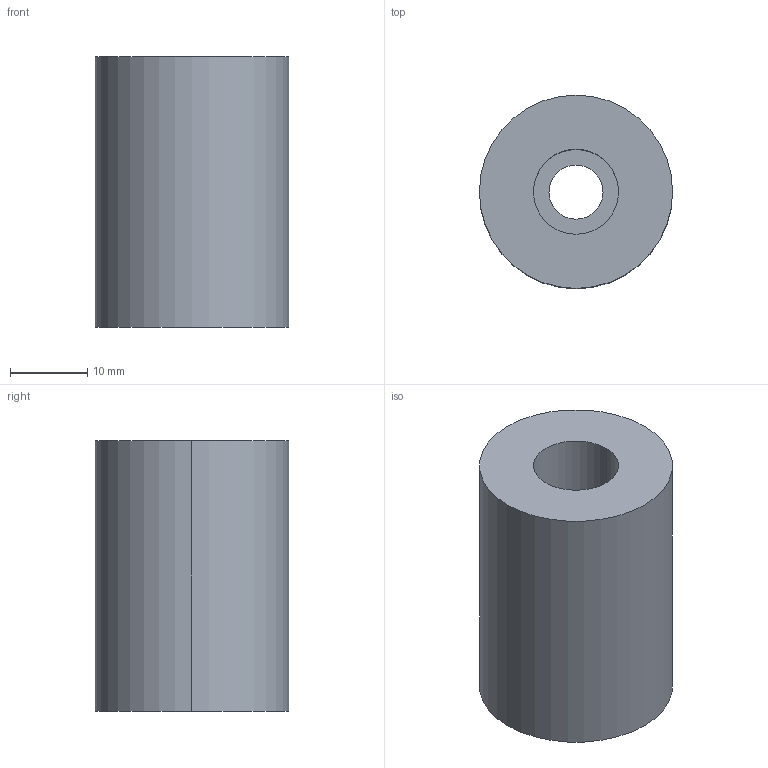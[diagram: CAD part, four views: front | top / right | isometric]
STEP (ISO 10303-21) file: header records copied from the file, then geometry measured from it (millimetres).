
FILE_DESCRIPTION(/* description */ (''),/* implementation_level */ '2;1');
FILE_NAME(/* name */ '3d_azn25-35_03258_r00.stp',/* time_stamp */ '2011-01-10T14:17:33+09:00',/* author */ ('MISUMI'),/* organization */ (''),/* preprocessor_version */ 'ST-DEVELOPER v11',/* originating_system */ 'UGS - NX 5.0',/* authorisation */ '');
FILE_SCHEMA (('CONFIG_CONTROL_DESIGN'));
Length unit declared in the file: millimetre
Products named in the file (1): 3d_azn25-35_03258_r00
Bounding box: 25 x 25 x 35 mm (x, y, z)
Volume: 14419.9 mm3; surface area: 4737.5 mm2
Topology: 1 solids, 1 shells, 9 faces, 18 edges, 12 vertices
Faces by surface type: cylinder 6, plane 3
Entity records: 334 total; most frequent: DIRECTION 50, CARTESIAN_POINT 40, ORIENTED_EDGE 36, AXIS2_PLACEMENT_3D 22, EDGE_CURVE 18, EDGE_LOOP 12, VERTEX_POINT 12, CIRCLE 12
